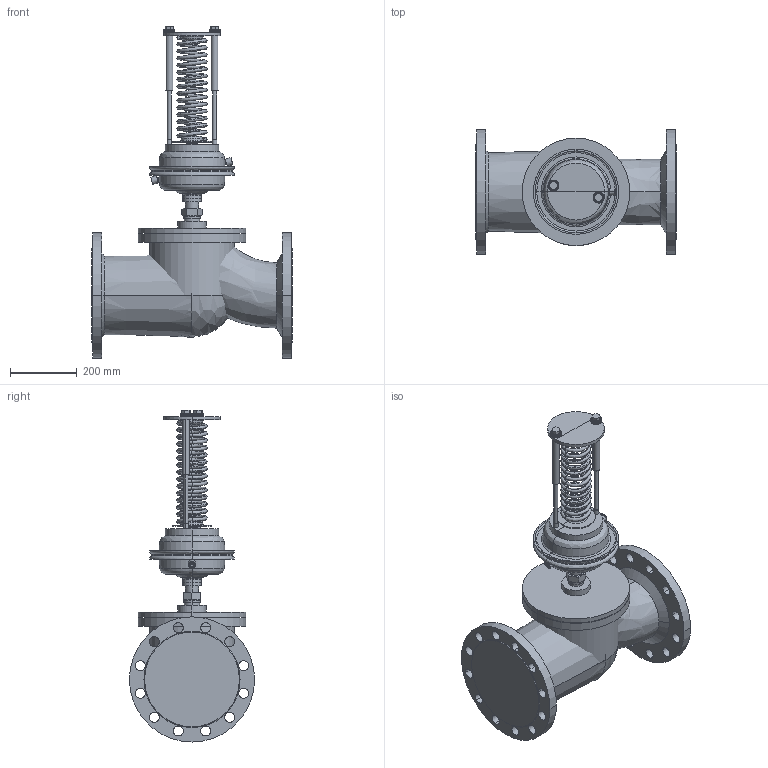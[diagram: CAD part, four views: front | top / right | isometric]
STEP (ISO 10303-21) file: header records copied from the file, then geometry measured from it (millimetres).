
FILE_DESCRIPTION(/* description */ (''),/* implementation_level */ '2;1');
FILE_NAME(/* name */ 'ETM_Регулятордавления_УРРД_НЗ_РД_DN200_PN40 0.01—0.07 МПа',/* time_stamp */ '2026-04-27T20:31:41+03:00',/* author */ (''),/* organization */ (''),/* preprocessor_version */ 'ST-DEVELOPER v20',/* originating_system */ '',/* authorisation */ '');
FILE_SCHEMA (('AP242_MANAGED_MODEL_BASED_3D_ENGINEERING_MIM_LF { 1 0 10303 442 1 1 4 }'));
Length unit declared in the file: millimetre
Products named in the file (13): TopLevelAssembly; Выдавливание; Переход; Выдавливание_
1; Переход_1; Переход_2; Переход_3; Объемная геометрия 
присоединена; Выдавливание_
2; Выдавливание_
3; Объемная геометрия 
присоединена_1; Выдавливание_
4; Пружина желтая
Assembly tree (12 placements, depth 2):
  TopLevelAssembly
    Выдавливание
    Переход
    Выдавливание_
1
    Переход_1
    Переход_2
    Переход_3
    Объемная геометрия 
присоединена
    Выдавливание_
2
    Выдавливание_
3
    Объемная геометрия 
присоединена_1
    Выдавливание_
4
    Пружина желтая
Bounding box: 600 x 375 x 994.61 mm (x, y, z)
Volume: 49659640.5 mm3; surface area: 2675535 mm2
Topology: 33 solids, 33 shells, 538 faces, 1126 edges, 592 vertices
Faces by surface type: bspline 191, plane 183, cylinder 154, cone 10
Entity records: 17709 total; most frequent: CARTESIAN_POINT 5999, DIRECTION 2484, ORIENTED_EDGE 2160, EDGE_CURVE 1080, AXIS2_PLACEMENT_3D 1056, CIRCLE 683, VERTEX_POINT 592, EDGE_LOOP 590
